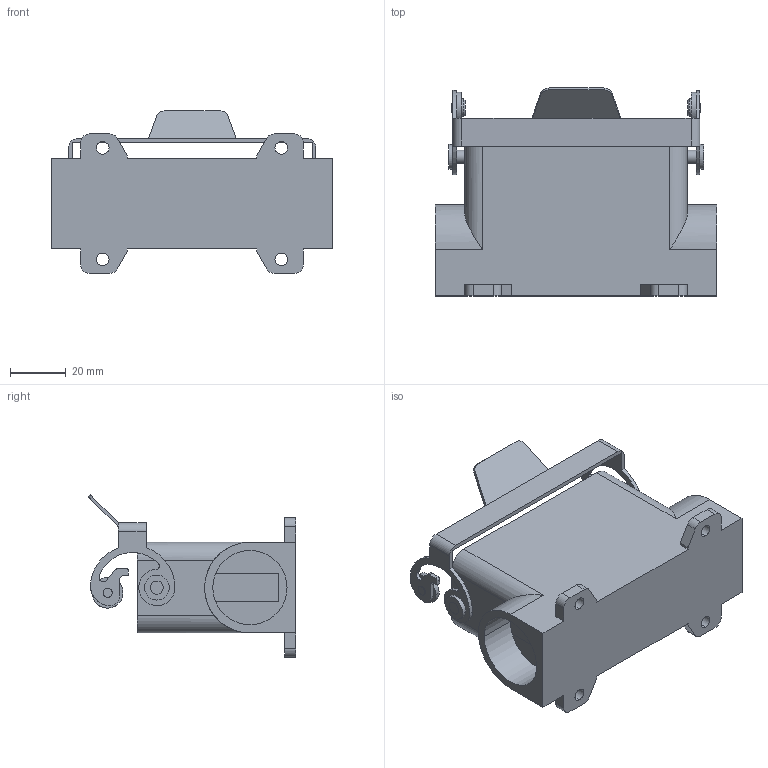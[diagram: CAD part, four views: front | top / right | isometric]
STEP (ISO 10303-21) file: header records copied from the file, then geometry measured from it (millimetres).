
FILE_DESCRIPTION (( 'STEP AP214' ), '1' );
FILE_NAME ('CZAP-25L21.STEP', '2007-06-13T21:11:49', ( 'Bruce Mistarz' ), ( 'Mencom Corp' ), 'SwSTEP 2.0', 'SolidWorks 2007', '' );
FILE_SCHEMA (( 'AUTOMOTIVE_DESIGN' ));
Length unit declared in the file: inch
Products named in the file (1): CZAP-25L21
Bounding box: 101 x 74.57 x 58.34 mm (x, y, z)
Surface area: 37183.3 mm2 (no closed solid volume)
Topology: 0 solids, 4 shells, 196 faces, 540 edges, 356 vertices
Faces by surface type: cylinder 103, plane 89, cone 4
Entity records: 8960 total; most frequent: CARTESIAN_POINT 1211, DIRECTION 1146, ORIENTED_EDGE 1037, EDGE_CURVE 540, AXIS2_PLACEMENT_3D 419, VERTEX_POINT 356, VECTOR 308, LINE 308
